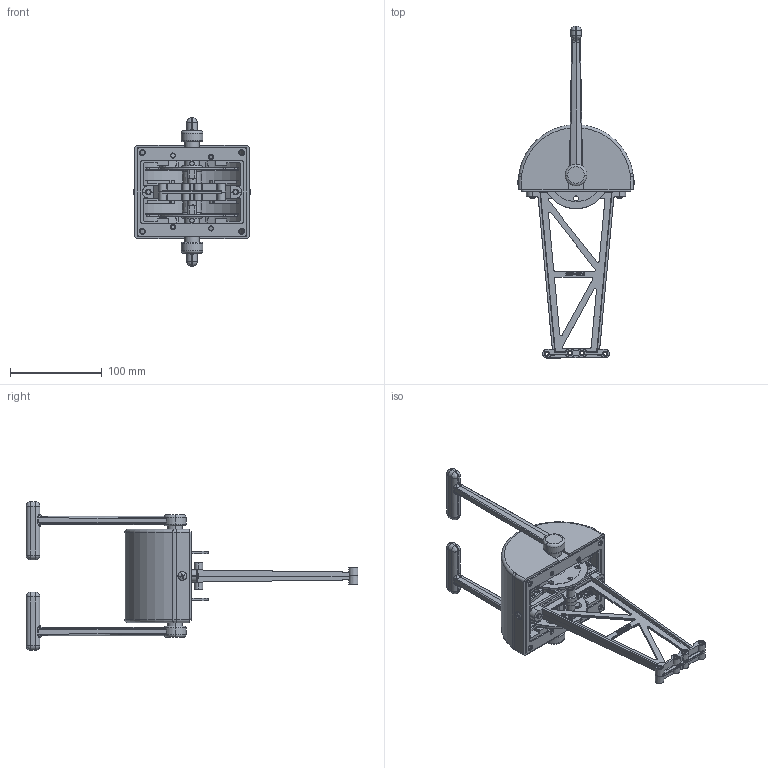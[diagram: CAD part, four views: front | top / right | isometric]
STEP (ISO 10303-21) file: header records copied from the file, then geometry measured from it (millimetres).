
FILE_DESCRIPTION (( 'STEP AP214' ), '1' );
FILE_NAME ('2009.STEP', '2019-05-28T19:59:02', ( '' ), ( '' ), 'SwSTEP 2.0', 'SolidWorks 2019', '' );
FILE_SCHEMA (( 'AUTOMOTIVE_DESIGN' ));
Length unit declared in the file: inch
Products named in the file (1): 2009
Bounding box: 127.31 x 361.35 x 161.93 mm (x, y, z)
Surface area: 170326.4 mm2 (no closed solid volume)
Topology: 0 solids, 32 shells, 875 faces, 2904 edges, 1993 vertices
Faces by surface type: cylinder 304, plane 257, bspline 134, cone 108, torus 59, sphere 13
Entity records: 50405 total; most frequent: CARTESIAN_POINT 15038, DIRECTION 4915, ORIENTED_EDGE 4638, EDGE_CURVE 2879, VERTEX_POINT 1991, AXIS2_PLACEMENT_3D 1874, VECTOR 1167, LINE 1167
